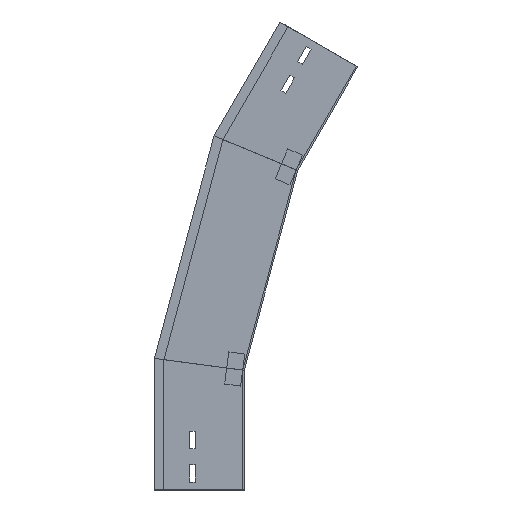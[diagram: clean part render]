
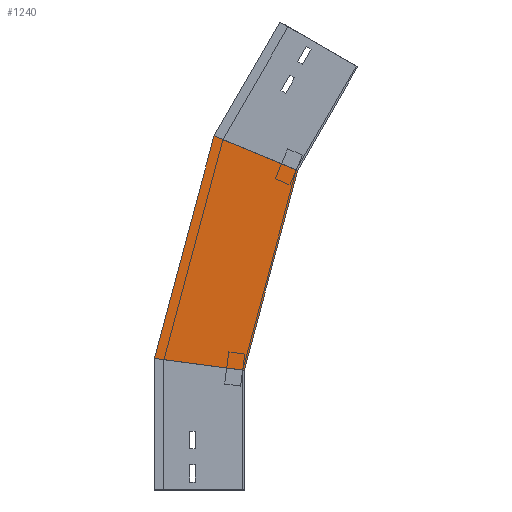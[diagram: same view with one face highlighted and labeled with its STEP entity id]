
A CAD part, left-side view. The second image highlights one B-rep face of the part: STEP entity #1240.
In plain terms, the highlighted planar face has unit normal (-1, 0, 0) as drawn and (1, 0, 0) by its records, which use the part's own axes.
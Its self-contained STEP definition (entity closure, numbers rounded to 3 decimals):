
#136 = VERTEX_POINT ( 'NONE', #1433 ) ;
#137 = EDGE_CURVE ( 'NONE', #136, #559, #1288, .T. ) ;
#145 = EDGE_CURVE ( 'NONE', #641, #1298, #608, .T. ) ;
#176 = EDGE_CURVE ( 'NONE', #641, #136, #853, .T. ) ;
#244 = EDGE_LOOP ( 'NONE', ( #1405, #807, #1416, #1409 ) ) ;
#254 = DIRECTION ( 'NONE',  ( 0., -0.924, -0.383 ) ) ;
#270 = DIRECTION ( 'NONE',  ( 0., -0.259, 0.966 ) ) ;
#283 = DIRECTION ( 'NONE',  ( 0., -0.259, 0.966 ) ) ;
#291 = CARTESIAN_POINT ( 'NONE',  ( 0., 112.909, 163.284 ) ) ;
#339 = AXIS2_PLACEMENT_3D ( 'NONE', #718, #1158, #576 ) ;
#559 = VERTEX_POINT ( 'NONE', #612 ) ;
#576 = DIRECTION ( 'NONE',  ( 0., 0., -1. ) ) ;
#578 = EDGE_CURVE ( 'NONE', #1298, #559, #870, .T. ) ;
#583 = CARTESIAN_POINT ( 'NONE',  ( 0., 0., 150. ) ) ;
#602 = CARTESIAN_POINT ( 'NONE',  ( 0., -19.411, 147.444 ) ) ;
#608 = LINE ( 'NONE', #602, #1466 ) ;
#612 = CARTESIAN_POINT ( 'NONE',  ( 0., -67.034, 400.175 ) ) ;
#640 = VECTOR ( 'NONE', #283, 1000. ) ;
#641 = VERTEX_POINT ( 'NONE', #1453 ) ;
#718 = CARTESIAN_POINT ( 'NONE',  ( 0., 4.243, 134.167 ) ) ;
#725 = DIRECTION ( 'NONE',  ( 0., -0.991, -0.131 ) ) ;
#807 = ORIENTED_EDGE ( 'NONE', *, *, #137, .T. ) ;
#810 = PLANE ( 'NONE',  #339 ) ;
#838 = FACE_OUTER_BOUND ( 'NONE', #244, .T. ) ;
#844 = VECTOR ( 'NONE', #270, 1000. ) ;
#853 = LINE ( 'NONE', #291, #844 ) ;
#863 = CARTESIAN_POINT ( 'NONE',  ( 0., 4.243, 134.167 ) ) ;
#870 = LINE ( 'NONE', #863, #640 ) ;
#1027 = VECTOR ( 'NONE', #254, 1000. ) ;
#1158 = DIRECTION ( 'NONE',  ( 1., 0., 0. ) ) ;
#1240 = ADVANCED_FACE ( 'NONE', ( #838 ), #810, .T. ) ;
#1288 = LINE ( 'NONE', #1425, #1027 ) ;
#1298 = VERTEX_POINT ( 'NONE', #583 ) ;
#1405 = ORIENTED_EDGE ( 'NONE', *, *, #176, .T. ) ;
#1409 = ORIENTED_EDGE ( 'NONE', *, *, #145, .F. ) ;
#1416 = ORIENTED_EDGE ( 'NONE', *, *, #578, .F. ) ;
#1425 = CARTESIAN_POINT ( 'NONE',  ( 0., -100.244, 386.419 ) ) ;
#1433 = CARTESIAN_POINT ( 'NONE',  ( 0., 37.799, 443.598 ) ) ;
#1453 = CARTESIAN_POINT ( 'NONE',  ( 0., 112.5, 164.811 ) ) ;
#1466 = VECTOR ( 'NONE', #725, 1000. ) ;
